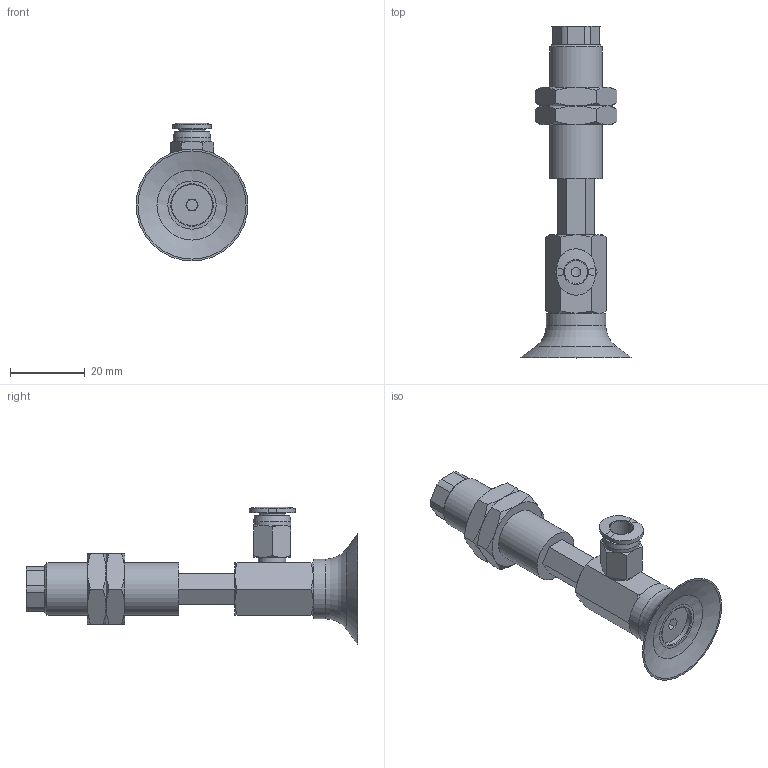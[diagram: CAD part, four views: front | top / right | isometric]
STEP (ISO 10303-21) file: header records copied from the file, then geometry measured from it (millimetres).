
FILE_DESCRIPTION(('STEP AP203'),'1');
FILE_NAME('-O.stp','2025-04-10T07:47:32',(' '),(' '),'Spatial InterOp 3D',' ',' ');
FILE_SCHEMA(('CONFIG_CONTROL_DESIGN'));
Length unit declared in the file: millimetre
Products named in the file (8): BNABPFYH-30-15-※-O; TN-PF-30-M6-NAPF; CONNECTOR-H-30-15; Nut-30-15-h; NAPFTH-30-15-FBODY; NAPFTH-30-15-MBODY; BPFG-30-※; PC-C_06-M5
Assembly tree (8 placements, depth 2):
  BNABPFYH-30-15-※-O
    TN-PF-30-M6-NAPF
    CONNECTOR-H-30-15
    Nut-30-15-h  x2
    NAPFTH-30-15-FBODY
    NAPFTH-30-15-MBODY
    BPFG-30-※
    PC-C_06-M5
Bounding box: 30 x 89 x 36.98 mm (x, y, z)
Volume: 14466.9 mm3; surface area: 12419.8 mm2
Topology: 7 solids, 10 shells, 206 faces, 436 edges, 265 vertices
Faces by surface type: plane 95, cone 67, cylinder 29, torus 7, bspline 5, revolution 3
Full cylindrical faces by diameter (mm): 3 x2, 4 x2, 4.134 x2, 4.917 x1, 5 x2, 6 x2, 7 x1, 7.4 x1, 8.2 x1, 10 x1, 11 x2, 12.917 x2, 14 x1, 16 x1
Entity records: 5575 total; most frequent: CARTESIAN_POINT 1533, DIRECTION 751, ORIENTED_EDGE 674, EDGE_CURVE 339, AXIS2_PLACEMENT_3D 307, EDGE_LOOP 258, VERTEX_POINT 233, FACE_OUTER_BOUND 151
